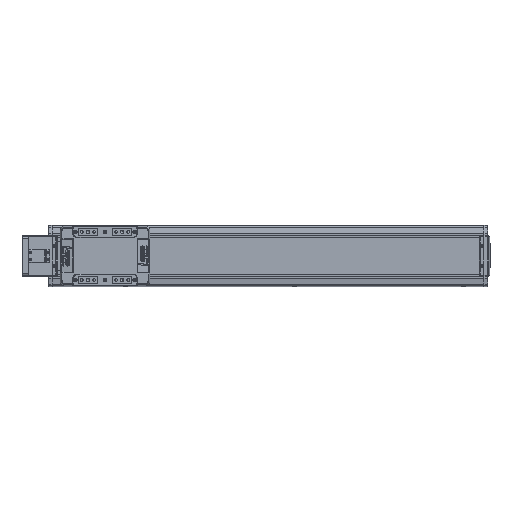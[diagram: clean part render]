
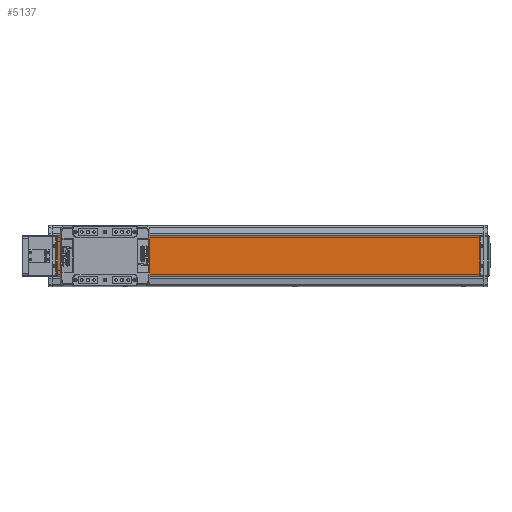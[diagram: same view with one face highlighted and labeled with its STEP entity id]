
A CAD part, top view. The second image highlights one B-rep face of the part: STEP entity #5137.
In plain terms, the highlighted planar face has unit normal (0, 0, 1).
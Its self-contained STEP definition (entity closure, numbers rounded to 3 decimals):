
#5137=ADVANCED_FACE('',(#12229),#12230,.F.);
#12229=FACE_OUTER_BOUND('',#22924,.T.);
#12230=PLANE('',#22925);
#22924=EDGE_LOOP('',(#37457,#37458,#37459,#37460));
#22925=AXIS2_PLACEMENT_3D('',#37461,#37462,#37463);
#37457=ORIENTED_EDGE('',*,*,#59515,.F.);
#37458=ORIENTED_EDGE('',*,*,#61624,.F.);
#37459=ORIENTED_EDGE('',*,*,#61625,.F.);
#37460=ORIENTED_EDGE('',*,*,#61626,.T.);
#37461=CARTESIAN_POINT('',(0.,0.,26.));
#37462=DIRECTION('',(0.,0.,-1.0));
#37463=DIRECTION('',(0.,1.0,0.));
#59515=EDGE_CURVE('',#71515,#71517,#71518,.T.);
#61624=EDGE_CURVE('',#75011,#71515,#75012,.T.);
#61625=EDGE_CURVE('',#75013,#75011,#75014,.T.);
#61626=EDGE_CURVE('',#75013,#71517,#75015,.T.);
#71515=VERTEX_POINT('',#88234);
#71517=VERTEX_POINT('',#88237);
#71518=LINE('',#88238,#88239);
#75011=VERTEX_POINT('',#93621);
#75012=LINE('',#93622,#93623);
#75013=VERTEX_POINT('',#93624);
#75014=LINE('',#93625,#93626);
#75015=LINE('',#93627,#93628);
#88234=CARTESIAN_POINT('',(1060.0,50.,26.));
#88237=CARTESIAN_POINT('',(1060.0,-50.,26.));
#88238=CARTESIAN_POINT('',(1060.0,-50.,26.));
#88239=VECTOR('',#108558,10.0);
#93621=CARTESIAN_POINT('',(0.,50.,26.));
#93622=CARTESIAN_POINT('',(0.,50.,26.));
#93623=VECTOR('',#111776,10.0);
#93624=CARTESIAN_POINT('',(0.,-50.,26.));
#93625=CARTESIAN_POINT('',(0.,-50.,26.));
#93626=VECTOR('',#111777,10.0);
#93627=CARTESIAN_POINT('',(0.,-50.,26.));
#93628=VECTOR('',#111778,10.0);
#108558=DIRECTION('',(0.,-1.0,0.));
#111776=DIRECTION('',(1.0,0.,0.));
#111777=DIRECTION('',(0.,1.0,0.));
#111778=DIRECTION('',(1.0,0.,0.));
